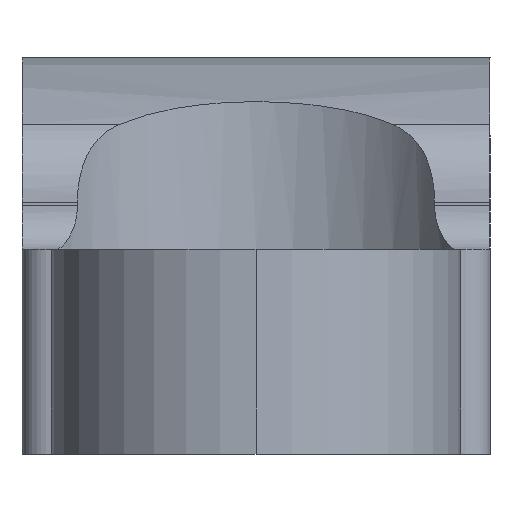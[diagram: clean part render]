
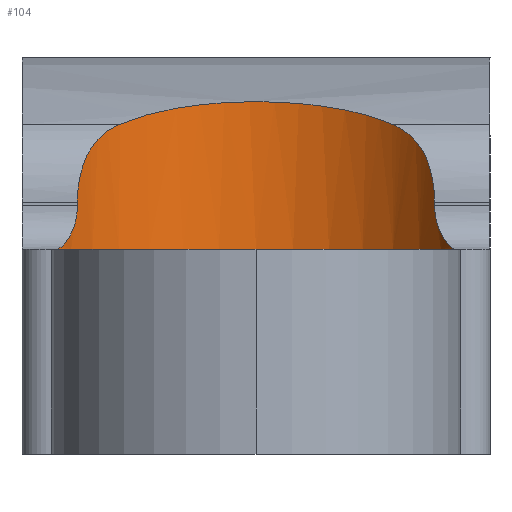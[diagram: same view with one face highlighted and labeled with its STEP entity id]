
A CAD part, left-side view. The second image highlights one B-rep face of the part: STEP entity #104.
In plain terms, the highlighted cylindrical face has radius 1.854 mm (diameter 3.708 mm), a partial arc.
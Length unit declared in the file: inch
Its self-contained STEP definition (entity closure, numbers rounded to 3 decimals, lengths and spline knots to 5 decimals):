
#50 = ORIENTED_EDGE ( 'NONE', *, *, #399, .T. ) ;
#54 = CARTESIAN_POINT ( 'NONE',  ( -0.15, 0.08, 0.07 ) ) ;
#71 = DIRECTION ( 'NONE',  ( 1., 0., 0. ) ) ;
#77 = CARTESIAN_POINT ( 'NONE',  ( -0.077, 0.08854, 0.12049 ) ) ;
#83 = CARTESIAN_POINT ( 'NONE',  ( -0.07996, 0.059, 0.11927 ) ) ;
#104 = ADVANCED_FACE ( 'NONE', ( #1368 ), #280, .F. ) ;
#106 = CARTESIAN_POINT ( 'NONE',  ( -0.11, 0.01893, 0.085 ) ) ;
#114 = EDGE_CURVE ( 'NONE', #884, #1350, #948, .T. ) ;
#116 = CARTESIAN_POINT ( 'NONE',  ( -0.125, 0.14859, 0.07 ) ) ;
#118 = VERTEX_POINT ( 'NONE', #407 ) ;
#124 = EDGE_LOOP ( 'NONE', ( #357, #538, #892, #50, #725, #890, #897, #1249 ) ) ;
#135 = VERTEX_POINT ( 'NONE', #401 ) ;
#139 = CARTESIAN_POINT ( 'NONE',  ( -0.09371, 0.03351, 0.11283 ) ) ;
#178 = DIRECTION ( 'NONE',  ( 0., 0., -1. ) ) ;
#191 = CARTESIAN_POINT ( 'NONE',  ( -0.07886, 0.06308, 0.11973 ) ) ;
#214 = EDGE_CURVE ( 'NONE', #118, #575, #1087, .T. ) ;
#215 = CARTESIAN_POINT ( 'NONE',  ( -0.09371, 0.03351, 0.11283 ) ) ;
#216 = CARTESIAN_POINT ( 'NONE',  ( -0.11, 0.01893, 0.085 ) ) ;
#217 = CARTESIAN_POINT ( 'NONE',  ( -0.12107, 0.01285, 0.07 ) ) ;
#235 = CARTESIAN_POINT ( 'NONE',  ( -0.10793, 0.1398, 0.09846 ) ) ;
#237 = B_SPLINE_CURVE_WITH_KNOTS ( 'NONE', 3,
 ( #649, #1201, #554, #777, #326, #749 ),
 .UNSPECIFIED., .F., .F.,
 ( 4, 2, 4 ),
 ( 0., 0.00047, 0.00094 ),
 .UNSPECIFIED. ) ;
#268 = AXIS2_PLACEMENT_3D ( 'NONE', #54, #1380, #71 ) ;
#278 = EDGE_CURVE ( 'NONE', #884, #1311, #857, .T. ) ;
#280 = CYLINDRICAL_SURFACE ( 'NONE', #985, 0.073 ) ;
#290 = CARTESIAN_POINT ( 'NONE',  ( -0.0843, 0.1129, 0.11739 ) ) ;
#294 = CARTESIAN_POINT ( 'NONE',  ( -0.15, 0.08, 0.13554 ) ) ;
#324 = VERTEX_POINT ( 'NONE', #139 ) ;
#326 = CARTESIAN_POINT ( 'NONE',  ( -0.09747, 0.02896, 0.11089 ) ) ;
#355 = CARTESIAN_POINT ( 'NONE',  ( -0.11, 0.01893, 0.08614 ) ) ;
#357 = ORIENTED_EDGE ( 'NONE', *, *, #511, .F. ) ;
#364 = VECTOR ( 'NONE', #178, 39.37008 ) ;
#376 = CARTESIAN_POINT ( 'NONE',  ( -0.09559, 0.12876, 0.11186 ) ) ;
#399 = EDGE_CURVE ( 'NONE', #135, #1350, #659, .T. ) ;
#401 = CARTESIAN_POINT ( 'NONE',  ( -0.09371, 0.12649, 0.11283 ) ) ;
#403 = VERTEX_POINT ( 'NONE', #355 ) ;
#404 = CARTESIAN_POINT ( 'NONE',  ( -0.08859, 0.12028, 0.11546 ) ) ;
#407 = CARTESIAN_POINT ( 'NONE',  ( -0.125, 0.01141, 0.07 ) ) ;
#412 = CARTESIAN_POINT ( 'NONE',  ( -0.11, 0.14107, 0.08614 ) ) ;
#429 = CARTESIAN_POINT ( 'NONE',  ( -0.125, 0.14859, 0.07 ) ) ;
#511 = EDGE_CURVE ( 'NONE', #403, #575, #1141, .T. ) ;
#516 = CARTESIAN_POINT ( 'NONE',  ( -0.07738, 0.07146, 0.12034 ) ) ;
#523 = CARTESIAN_POINT ( 'NONE',  ( -0.09112, 0.03666, 0.11416 ) ) ;
#538 = ORIENTED_EDGE ( 'NONE', *, *, #588, .T. ) ;
#554 = CARTESIAN_POINT ( 'NONE',  ( -0.10795, 0.02019, 0.09841 ) ) ;
#575 = VERTEX_POINT ( 'NONE', #216 ) ;
#583 = CARTESIAN_POINT ( 'NONE',  ( -0.09371, 0.12649, 0.11283 ) ) ;
#588 = EDGE_CURVE ( 'NONE', #403, #324, #237, .T. ) ;
#629 = CARTESIAN_POINT ( 'NONE',  ( -0.077, 0.07578, 0.12049 ) ) ;
#635 = CARTESIAN_POINT ( 'NONE',  ( -0.08878, 0.04002, 0.11529 ) ) ;
#644 = CARTESIAN_POINT ( 'NONE',  ( -0.11, 0.01893, 0.0808 ) ) ;
#649 = CARTESIAN_POINT ( 'NONE',  ( -0.11, 0.01893, 0.08614 ) ) ;
#659 = B_SPLINE_CURVE_WITH_KNOTS ( 'NONE', 3,
 ( #583, #376, #1000, #1237, #895, #235, #1337, #1011 ),
 .UNSPECIFIED., .F., .F.,
 ( 4, 2, 2, 4 ),
 ( 0., 0.00023, 0.00047, 0.00094 ),
 .UNSPECIFIED. ) ;
#725 = ORIENTED_EDGE ( 'NONE', *, *, #114, .F. ) ;
#749 = CARTESIAN_POINT ( 'NONE',  ( -0.09371, 0.03351, 0.11283 ) ) ;
#777 = CARTESIAN_POINT ( 'NONE',  ( -0.10157, 0.02522, 0.10774 ) ) ;
#779 = CARTESIAN_POINT ( 'NONE',  ( -0.125, 0.01141, 0.07 ) ) ;
#835 = CARTESIAN_POINT ( 'NONE',  ( -0.11, 0.14107, 0.085 ) ) ;
#857 = B_SPLINE_CURVE_WITH_KNOTS ( 'NONE', 3,
 ( #1097, #887, #994, #1404, #1313, #429 ),
 .UNSPECIFIED., .F., .F.,
 ( 4, 2, 4 ),
 ( 0., 0.00031, 0.00063 ),
 .UNSPECIFIED. ) ;
#884 = VERTEX_POINT ( 'NONE', #835 ) ;
#887 = CARTESIAN_POINT ( 'NONE',  ( -0.11, 0.14107, 0.08081 ) ) ;
#890 = ORIENTED_EDGE ( 'NONE', *, *, #278, .T. ) ;
#892 = ORIENTED_EDGE ( 'NONE', *, *, #972, .F. ) ;
#895 = CARTESIAN_POINT ( 'NONE',  ( -0.10316, 0.13603, 0.10542 ) ) ;
#897 = ORIENTED_EDGE ( 'NONE', *, *, #937, .F. ) ;
#915 = B_SPLINE_CURVE_WITH_KNOTS ( 'NONE', 3,
 ( #944, #404, #290, #1268, #77, #629, #516, #191, #83, #1061, #959, #635, #523, #215 ),
 .UNSPECIFIED., .F., .F.,
 ( 4, 2, 2, 2, 2, 2, 4 ),
 ( 0.00197, 0.00261, 0.00325, 0.00357, 0.0039, 0.00422, 0.00454 ),
 .UNSPECIFIED. ) ;
#937 = EDGE_CURVE ( 'NONE', #118, #1311, #1155, .T. ) ;
#939 = CARTESIAN_POINT ( 'NONE',  ( -0.11, 0.14107, 0.13554 ) ) ;
#944 = CARTESIAN_POINT ( 'NONE',  ( -0.09371, 0.12649, 0.11283 ) ) ;
#947 = CARTESIAN_POINT ( 'NONE',  ( -0.11, 0.01893, 0.13554 ) ) ;
#948 = LINE ( 'NONE', #939, #1113 ) ;
#959 = CARTESIAN_POINT ( 'NONE',  ( -0.08465, 0.04721, 0.11722 ) ) ;
#972 = EDGE_CURVE ( 'NONE', #135, #324, #915, .T. ) ;
#985 = AXIS2_PLACEMENT_3D ( 'NONE', #294, #1033, #1382 ) ;
#989 = CARTESIAN_POINT ( 'NONE',  ( -0.11738, 0.01462, 0.07152 ) ) ;
#994 = CARTESIAN_POINT ( 'NONE',  ( -0.11182, 0.1423, 0.07687 ) ) ;
#1000 = CARTESIAN_POINT ( 'NONE',  ( -0.09752, 0.13081, 0.11062 ) ) ;
#1011 = CARTESIAN_POINT ( 'NONE',  ( -0.11, 0.14107, 0.08614 ) ) ;
#1033 = DIRECTION ( 'NONE',  ( 0., 0., -1. ) ) ;
#1038 = DIRECTION ( 'NONE',  ( 0., 0., 1. ) ) ;
#1061 = CARTESIAN_POINT ( 'NONE',  ( -0.08284, 0.05107, 0.11802 ) ) ;
#1087 = B_SPLINE_CURVE_WITH_KNOTS ( 'NONE', 3,
 ( #779, #217, #989, #1321, #644, #106 ),
 .UNSPECIFIED., .F., .F.,
 ( 4, 2, 4 ),
 ( 0., 0.00031, 0.00063 ),
 .UNSPECIFIED. ) ;
#1097 = CARTESIAN_POINT ( 'NONE',  ( -0.11, 0.14107, 0.085 ) ) ;
#1113 = VECTOR ( 'NONE', #1038, 39.37008 ) ;
#1141 = LINE ( 'NONE', #947, #364 ) ;
#1155 = CIRCLE ( 'NONE', #268, 0.073 ) ;
#1201 = CARTESIAN_POINT ( 'NONE',  ( -0.11, 0.01893, 0.09237 ) ) ;
#1237 = CARTESIAN_POINT ( 'NONE',  ( -0.10131, 0.13446, 0.1074 ) ) ;
#1249 = ORIENTED_EDGE ( 'NONE', *, *, #214, .T. ) ;
#1268 = CARTESIAN_POINT ( 'NONE',  ( -0.07854, 0.09713, 0.11988 ) ) ;
#1311 = VERTEX_POINT ( 'NONE', #116 ) ;
#1313 = CARTESIAN_POINT ( 'NONE',  ( -0.12107, 0.14715, 0.07 ) ) ;
#1321 = CARTESIAN_POINT ( 'NONE',  ( -0.11182, 0.0177, 0.07687 ) ) ;
#1337 = CARTESIAN_POINT ( 'NONE',  ( -0.11, 0.14107, 0.09238 ) ) ;
#1350 = VERTEX_POINT ( 'NONE', #412 ) ;
#1368 = FACE_OUTER_BOUND ( 'NONE', #124, .T. ) ;
#1380 = DIRECTION ( 'NONE',  ( 0., 0., 1. ) ) ;
#1382 = DIRECTION ( 'NONE',  ( -1., 0., 0. ) ) ;
#1404 = CARTESIAN_POINT ( 'NONE',  ( -0.11736, 0.14538, 0.07153 ) ) ;
